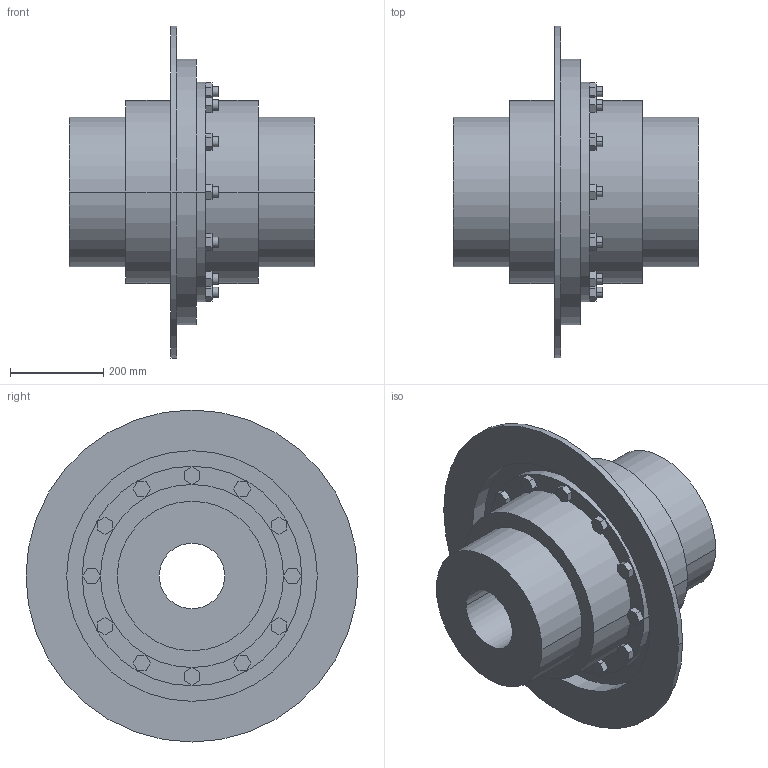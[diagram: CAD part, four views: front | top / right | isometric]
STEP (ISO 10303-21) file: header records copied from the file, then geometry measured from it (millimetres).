
FILE_DESCRIPTION((''),'2;1');
FILE_NAME('A19126900-0_ASM','2018-11-13T',('AB_Roschiwal'),('RENK AG'),'PRO/ENGINEER BY PARAMETRIC TECHNOLOGY CORPORATION, 2015440','PRO/ENGINEER BY PARAMETRIC TECHNOLOGY CORPORATION, 2015440','');
FILE_SCHEMA(('CONFIG_CONTROL_DESIGN'));
Length unit declared in the file: millimetre
Products named in the file (4): LBKT200_GEHAEUSE; LBKT200_NABE; LBKT200_BREMSSCHEIBE; A19126900-0_ASM
Assembly tree (4 placements, depth 2):
  A19126900-0_ASM
    LBKT200_GEHAEUSE
    LBKT200_NABE  x2
    LBKT200_BREMSSCHEIBE
Bounding box: 526 x 711 x 711 mm (x, y, z)
Volume: 48952086.4 mm3; surface area: 2856475.7 mm2
Topology: 4 solids, 4 shells, 294 faces, 708 edges, 472 vertices
Faces by surface type: plane 202, cylinder 92
Entity records: 8412 total; most frequent: DIRECTION 1432, CARTESIAN_POINT 1430, ORIENTED_EDGE 1368, EDGE_CURVE 684, VECTOR 516, LINE 516, AXIS2_PLACEMENT_3D 458, VERTEX_POINT 456
